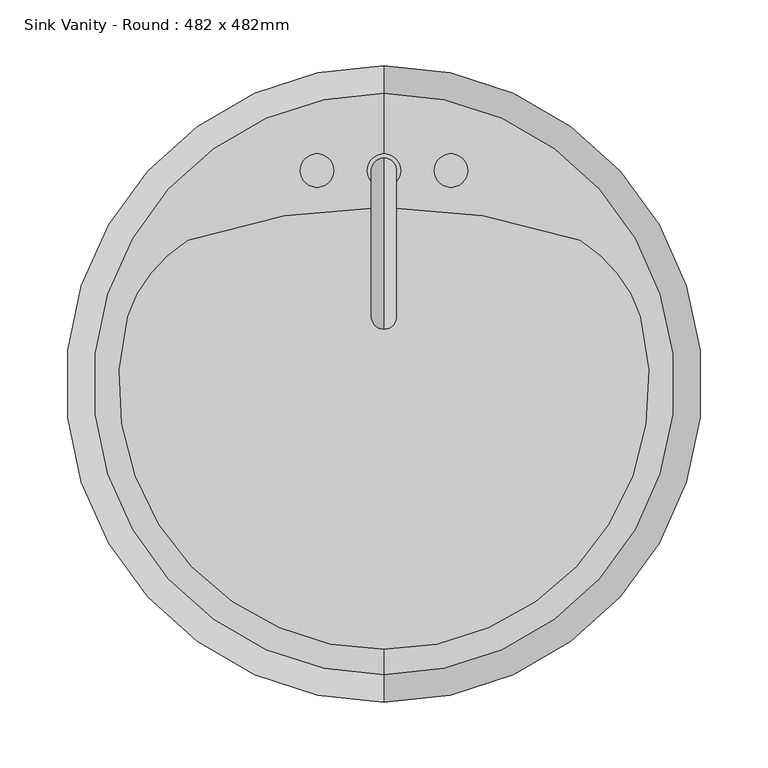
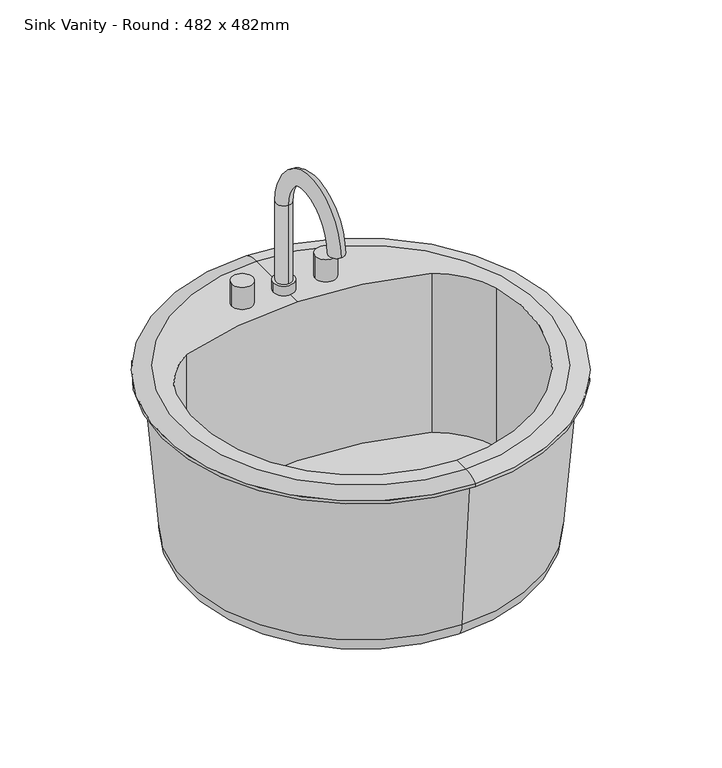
"""IFC4 building model written with IfcOpenShell, lengths in millimetres: flow terminal geometry, Sink Vanity - Round : 482 x 482mm."""

from ifc_helpers import new_model, si_unit, point, frame, frame_2d, origin, place, context, project, spatial, polyline, circle_curve, ellipse_curve, trimmed, segment, composite_curve, outline, extrude, source, transform, mapped, element, save
from ifc_brep_helpers import plane_surface, cylinder_surface, revolved_surface, advanced_brep


def sink_vanity_round_482_x_482mm_621b7b9b(model_context):
    return source(origin(), model_context, "Body", "SolidModel", [
        advanced_brep(
        [(83.9517406, 247.0927185, 759.525), (109.3517406, 247.0927185, 759.525), (83.9517406, 247.0927185, 771.7602909), (109.3517406, 247.0927185, 771.7602909), (96.6517406, 237.5677185, 771.7602909), (96.6517406, 256.6177185, 771.7602909), (96.6517406, 237.5677185, 872.2375), (96.6517406, 256.6177185, 872.2375), (96.6517406, 145.7775038, 872.2375), (96.6517406, 126.7275038, 872.2375)],
        [
            (0, 1, circle_curve(frame((96.6517406, 247.0927185, 759.525), z_axis=(0.0, 0.0, -1.0), x_axis=(1.0, 0.0, 0.0)), 12.7)),
            (1, 0, circle_curve(frame((96.6517406, 247.0927185, 759.525), z_axis=(0.0, 0.0, -1.0), x_axis=(1.0, 0.0, 0.0)), 12.7)),
            (2, 3, circle_curve(frame((96.6517406, 247.0927185, 771.7602909), z_axis=(0.0, 0.0, 1.0), x_axis=(1.0, 0.0, 0.0)), 12.7)),
            (3, 2, circle_curve(frame((96.6517406, 247.0927185, 771.7602909), z_axis=(0.0, 0.0, 1.0), x_axis=(1.0, 0.0, 0.0)), 12.7)),
            (4, 5, circle_curve(frame((96.6517406, 247.0927185, 771.7602909), z_axis=(0.0, 0.0, -1.0), x_axis=(0.0, 1.0, 0.0)), 9.525)),
            (5, 4, circle_curve(frame((96.6517406, 247.0927185, 771.7602909), z_axis=(0.0, 0.0, -1.0), x_axis=(0.0, 1.0, 0.0)), 9.525)),
            (2, 0),
            (1, 3),
            (6, 7, circle_curve(frame((96.6517406, 247.0927185, 872.2375), z_axis=(0.0, 0.0, -1.0), x_axis=(0.0, 1.0, 0.0)), 9.525)),
            (7, 5),
            (4, 6),
            (7, 6, circle_curve(frame((96.6517406, 247.0927185, 872.2375), z_axis=(0.0, 0.0, -1.0), x_axis=(0.0, 1.0, 0.0)), 9.525)),
            (8, 9, circle_curve(frame((96.6517406, 136.2525038, 872.2375), z_axis=(0.0, 0.0, -1.0), x_axis=(0.0, -1.0, 0.0)), 9.525)),
            (9, 8, circle_curve(frame((96.6517406, 136.2525038, 872.2375), z_axis=(0.0, 0.0, -1.0), x_axis=(0.0, -1.0, 0.0)), 9.525)),
            (6, 8, circle_curve(frame((96.6517406, 191.6726112, 872.2375), z_axis=(1.0, 0.0, 0.0), x_axis=(0.0, 1.0, 0.0)), 45.8951073)),
            (9, 7, circle_curve(frame((96.6517406, 191.6726112, 872.2375), z_axis=(-1.0, 0.0, 0.0), x_axis=(0.0, 1.0, 0.0)), 64.9451073)),
        ],
        [
            plane_surface(frame((109.3517406, 247.0927185, 759.525), z_axis=(0.0, 0.0, -1.0), x_axis=(0.0, -1.0, 0.0))),
            plane_surface(frame((109.3517406, 247.0927185, 771.7602909), z_axis=(0.0, 0.0, 1.0), x_axis=(0.0, 1.0, 0.0))),
            cylinder_surface(frame((96.6517406, 247.0927185, 759.525), z_axis=(0.0, 0.0, 1.0), x_axis=(1.0, 0.0, 0.0)), 12.7),
            cylinder_surface(frame((96.6517406, 247.0927185, 759.525), z_axis=(0.0, 0.0, -1.0), x_axis=(0.0, 1.0, 0.0)), 9.525),
            plane_surface(frame((96.6517406, 191.6726112, 872.2375), z_axis=(0.0, 0.0, -1.0), x_axis=(0.0, -1.0, 0.0))),
            revolved_surface(trimmed(ellipse_curve(frame((96.6517406, 247.0927185, 872.2375), z_axis=(0.0, 0.0, -1.0), x_axis=(0.0, 1.0, 0.0)), 9.525, 9.525), [point((96.6517406, 237.5677185, 872.2375))], [point((96.6517406, 256.6177185, 872.2375))], True, "CARTESIAN"), (96.6517406, 191.6726112, 872.2375), (1.0, 0.0, 0.0)),
            revolved_surface(trimmed(ellipse_curve(frame((96.6517406, 247.0927185, 872.2375), z_axis=(0.0, 0.0, -1.0), x_axis=(0.0, 1.0, 0.0)), 9.525, 9.525), [point((96.6517406, 256.6177185, 872.2375))], [point((96.6517406, 237.5677185, 872.2375))], True, "CARTESIAN"), (96.6517406, 191.6726112, 872.2375), (1.0, 0.0, 0.0)),
        ],
        [
            (0, [[1, 2]]),
            (1, [[3, 4], [5, 6]]),
            (2, [[-3, 7, -2, 8]]),
            (2, [[-4, -8, -1, -7]]),
            (3, [[9, 10, -5, 11]]),
            (3, [[12, -11, -6, -10]]),
            (4, [[13, 14]]),
            (5, [[-9, 15, -14, 16]]),
            (6, [[-12, -16, -13, -15]]),
        ],
    ),
        extrude(outline(composite_curve([segment(trimmed(circle_curve(frame_2d((45.8517406, 247.0927185)), 12.7), [point((33.1517406, 247.0927185))], [point((58.5517406, 247.0927185))], False, "CARTESIAN"), True, "CONTINUOUS"), segment(trimmed(circle_curve(frame_2d((45.8517406, 247.0927185)), 12.7), [point((58.5517406, 247.0927185))], [point((33.1517406, 247.0927185))], False, "CARTESIAN"), True, "CONTINUOUS")], self_intersect=False)), frame((0.0, 0.0, 759.525), z_axis=(0.0, 0.0, 1.0), x_axis=(1.0, 0.0, 0.0)), (0.0, 0.0, 1.0), 28.575),
        extrude(outline(composite_curve([segment(trimmed(circle_curve(frame_2d((147.4517406, 247.0927185)), 12.7), [point((134.7517406, 247.0927185))], [point((160.1517406, 247.0927185))], False, "CARTESIAN"), True, "CONTINUOUS"), segment(trimmed(circle_curve(frame_2d((147.4517406, 247.0927185)), 12.7), [point((160.1517406, 247.0927185))], [point((134.7517406, 247.0927185))], False, "CARTESIAN"), True, "CONTINUOUS")], self_intersect=False)), frame((0.0, 0.0, 759.525), z_axis=(0.0, 0.0, 1.0), x_axis=(1.0, 0.0, 0.0)), (0.0, 0.0, 1.0), 28.575),
        advanced_brep(
        [(96.6517406, -135.3870093, 759.525), (96.6517406, 305.7224463, 759.525), (96.6517406, 326.4677185, 753.96875), (96.6517406, -156.1322815, 753.96875), (96.6517406, -116.2405705, 759.525), (-98.1703414, 136.2525038, 759.525), (-52.1534933, 194.0861398, 759.525), (96.6517406, 219.2662048, 759.525), (245.4569744, 194.0861398, 759.525), (291.4738225, 136.2525038, 759.525), (96.6517406, -107.1264028, 534.1), (96.6517406, 277.4618398, 534.1), (96.6517406, 85.1677185, 534.1), (96.6517406, -127.6827361, 555.2842611), (96.6517406, 298.0181731, 555.2842611), (96.6517406, -144.2260315, 750.0), (96.6517406, 314.5614685, 750.0), (96.6517406, -156.1322815, 750.0), (96.6517406, 326.4677185, 750.0), (245.4569744, 194.0861398, 555.2842611), (-52.1534933, 194.0861398, 555.2842611), (-98.1703414, 136.2525038, 555.2842611), (291.4738225, 136.2525038, 555.2842611)],
        [
            (0, 1, circle_curve(frame((96.6517406, 85.1677185, 759.525), z_axis=(0.0, 0.0, -1.0), x_axis=(0.0, 1.0, 0.0)), 220.5547278)),
            (1, 2, circle_curve(frame((96.6517406, 309.4374616, 731.889434), z_axis=(-1.0, 0.0, 0.0), x_axis=(0.0, 1.0, 0.0)), 27.8841505)),
            (2, 3, circle_curve(frame((96.6517406, 85.1677185, 753.96875), z_axis=(0.0, 0.0, 1.0), x_axis=(0.0, 1.0, 0.0)), 241.3)),
            (3, 0, circle_curve(frame((96.6517406, -139.1020246, 731.889434), z_axis=(-1.0, 0.0, 0.0), x_axis=(0.0, -1.0, 0.0)), 27.8841505)),
            (1, 0, circle_curve(frame((96.6517406, 85.1677185, 759.525), z_axis=(0.0, 0.0, -1.0), x_axis=(0.0, 1.0, 0.0)), 220.5547278)),
            (3, 2, circle_curve(frame((96.6517406, 85.1677185, 753.96875), z_axis=(0.0, 0.0, 1.0), x_axis=(0.0, 1.0, 0.0)), 241.3)),
            (0, 4),
            (4, 5, circle_curve(frame((96.6517406, 85.1677185, 759.525), z_axis=(0.0, 0.0, -1.0), x_axis=(1.0, 0.0, 0.0)), 201.408289)),
            (5, 6, circle_curve(frame((1.3689689, 104.2755165, 759.525), z_axis=(0.0, 0.0, -1.0), x_axis=(1.0, 0.0, 0.0)), 104.5495194)),
            (6, 7, circle_curve(frame((96.6517406, -233.0168462, 759.525), z_axis=(0.0, 0.0, -1.0), x_axis=(1.0, 0.0, 0.0)), 452.283051)),
            (7, 1),
            (7, 8, circle_curve(frame((96.6517406, -233.0168462, 759.525), z_axis=(0.0, 0.0, -1.0), x_axis=(1.0, 0.0, 0.0)), 452.283051)),
            (8, 9, circle_curve(frame((191.9345122, 104.2755165, 759.525), z_axis=(0.0, 0.0, -1.0), x_axis=(1.0, 0.0, 0.0)), 104.5495194)),
            (9, 4, circle_curve(frame((96.6517406, 85.1677185, 759.525), z_axis=(0.0, 0.0, -1.0), x_axis=(1.0, 0.0, 0.0)), 201.408289)),
            (10, 11, circle_curve(frame((96.6517406, 85.1677185, 534.1), z_axis=(0.0, 0.0, -1.0), x_axis=(0.0, 1.0, 0.0)), 192.2941213)),
            (11, 12),
            (12, 10),
            (11, 10, circle_curve(frame((96.6517406, 85.1677185, 534.1), z_axis=(0.0, 0.0, -1.0), x_axis=(0.0, 1.0, 0.0)), 192.2941213)),
            (10, 13, circle_curve(frame((96.6517406, -107.1264028, 554.6656396), z_axis=(-1.0, 0.0, 0.0), x_axis=(0.0, -1.0, 0.0)), 20.5656396)),
            (13, 14, circle_curve(frame((96.6517406, 85.1677185, 555.2842611), z_axis=(0.0, 0.0, -1.0), x_axis=(0.0, 1.0, 0.0)), 212.8504546)),
            (14, 11, circle_curve(frame((96.6517406, 277.4618398, 554.6656396), z_axis=(-1.0, 0.0, 0.0), x_axis=(0.0, 1.0, 0.0)), 20.5656396)),
            (14, 13, circle_curve(frame((96.6517406, 85.1677185, 555.2842611), z_axis=(0.0, 0.0, -1.0), x_axis=(0.0, 1.0, 0.0)), 212.8504546)),
            (13, 15),
            (15, 16, circle_curve(frame((96.6517406, 85.1677185, 750.0), z_axis=(0.0, 0.0, -1.0), x_axis=(0.0, 1.0, 0.0)), 229.39375)),
            (16, 14),
            (16, 15, circle_curve(frame((96.6517406, 85.1677185, 750.0), z_axis=(0.0, 0.0, -1.0), x_axis=(0.0, 1.0, 0.0)), 229.39375)),
            (15, 17),
            (17, 18, circle_curve(frame((96.6517406, 85.1677185, 750.0), z_axis=(0.0, 0.0, -1.0), x_axis=(0.0, 1.0, 0.0)), 241.3)),
            (18, 16),
            (18, 17, circle_curve(frame((96.6517406, 85.1677185, 750.0), z_axis=(0.0, 0.0, -1.0), x_axis=(0.0, 1.0, 0.0)), 241.3)),
            (2, 18),
            (17, 3),
            (19, 20, circle_curve(frame((96.6517406, -233.0168462, 555.2842611), z_axis=(0.0, 0.0, 1.0), x_axis=(1.0, 0.0, 0.0)), 452.283051)),
            (20, 21, circle_curve(frame((1.3689689, 104.2755165, 555.2842611), z_axis=(0.0, 0.0, 1.0), x_axis=(1.0, 0.0, 0.0)), 104.5495194)),
            (21, 22, circle_curve(frame((96.6517406, 85.1677185, 555.2842611), z_axis=(0.0, 0.0, 1.0), x_axis=(1.0, 0.0, 0.0)), 201.408289)),
            (22, 19, circle_curve(frame((191.9345122, 104.2755165, 555.2842611), z_axis=(0.0, 0.0, 1.0), x_axis=(1.0, 0.0, 0.0)), 104.5495194)),
            (19, 8),
            (6, 20),
            (5, 21),
            (9, 22),
        ],
        [
            revolved_surface(trimmed(ellipse_curve(frame((96.6517406, 309.4374616, 731.889434), z_axis=(1.0, 0.0, 0.0), x_axis=(0.0, 1.0, 0.0)), 27.8841505, 27.8841505), [point((96.6517406, 326.4677185, 753.96875))], [point((96.6517406, 305.7224463, 759.525))], True, "CARTESIAN"), (96.6517406, 85.1677185, 759.525), (0.0, 0.0, 1.0)),
            plane_surface(frame((96.6517406, 85.1677185, 759.525), z_axis=(0.0, 0.0, 1.0), x_axis=(0.0, 1.0, 0.0))),
            plane_surface(frame((96.6517406, 85.1677185, 534.1), z_axis=(0.0, 0.0, -1.0), x_axis=(0.0, 1.0, 0.0))),
            revolved_surface(trimmed(ellipse_curve(frame((96.6517406, 277.4618398, 554.6656396), z_axis=(1.0, 0.0, 0.0), x_axis=(0.0, 1.0, 0.0)), 20.5656396, 20.5656396), [point((96.6517406, 277.4618398, 534.1))], [point((96.6517406, 298.0181731, 555.2842611))], True, "CARTESIAN"), (96.6517406, 85.1677185, 759.525), (0.0, 0.0, 1.0)),
            revolved_surface(polyline([(96.6517406, 298.0181731, 555.2842611), (96.6517406, 314.5614685, 750.0)]), (96.6517406, 85.1677185, 759.525), (0.0, 0.0, 1.0)),
            plane_surface(frame((96.6517406, 85.1677185, 750.0), z_axis=(0.0, 0.0, -1.0), x_axis=(0.0, 1.0, 0.0))),
            cylinder_surface(frame((96.6517406, 85.1677185, 759.525), z_axis=(0.0, 0.0, 1.0), x_axis=(0.0, 1.0, 0.0)), 241.3),
            plane_surface(frame((548.9347916, -233.0168462, 555.2842611), z_axis=(0.0, 0.0, 1.0), x_axis=(0.0, -1.0, 0.0))),
            revolved_surface(polyline([(548.9347916, -233.0168462, 759.525), (548.9347916, -233.0168462, 555.2842611)]), (96.6517406, -233.0168462, 555.2842611), (0.0, 0.0, 1.0)),
            revolved_surface(polyline([(105.91848829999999, 104.2755165, 759.525), (105.91848829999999, 104.2755165, 555.2842611)]), (1.3689689, 104.2755165, 555.2842611), (0.0, 0.0, 1.0)),
            revolved_surface(polyline([(298.0600296, 85.1677185, 759.525), (298.0600296, 85.1677185, 555.2842611)]), (96.6517406, 85.1677185, 555.2842611), (0.0, 0.0, 1.0)),
            revolved_surface(polyline([(296.4840316, 104.2755165, 759.525), (296.4840316, 104.2755165, 555.2842611)]), (191.9345122, 104.2755165, 555.2842611), (0.0, 0.0, 1.0)),
        ],
        [
            (0, [[1, 2, 3, 4]]),
            (0, [[-2, 5, -4, 6]]),
            (1, [[-1, 7, 8, 9, 10, 11]]),
            (1, [[-5, -11, 12, 13, 14, -7]]),
            (2, [[15, 16, 17]]),
            (2, [[-16, 18, -17]]),
            (3, [[-15, 19, 20, 21]]),
            (3, [[-18, -21, 22, -19]]),
            (4, [[-20, 23, 24, 25]]),
            (4, [[-22, -25, 26, -23]]),
            (5, [[-24, 27, 28, 29]]),
            (5, [[-26, -29, 30, -27]]),
            (6, [[-3, 31, -28, 32]]),
            (6, [[-6, -32, -30, -31]]),
            (7, [[33, 34, 35, 36]]),
            (8, [[-33, 37, -12, -10, 38]]),
            (9, [[-34, -38, -9, 39]]),
            (10, [[-35, -39, -8, -14, 40]]),
            (11, [[-36, -40, -13, -37]]),
        ],
    ),
    ])


if __name__ == "__main__":
    model = new_model("IFC4")
    model_context = context("Model", 3, world=origin())
    ifc_project = project(units=[si_unit("LENGTHUNIT", "METRE", prefix="MILLI")], contexts=[model_context])
    site = spatial("IfcSite", under=ifc_project)
    building = spatial("IfcBuilding", under=site)
    placement = place(None, origin())
    sink_vanity_round_482_x_482mm_shape = sink_vanity_round_482_x_482mm_621b7b9b(model_context)
    element("IfcFlowTerminal", 1, ObjectType="Sink Vanity - Round : 482 x 482mm", at=placement, inside=building, context=model_context, shape_type="MappedRepresentation", body=[
        mapped(sink_vanity_round_482_x_482mm_shape, transform((0.0, 0.0, 0.0), x_axis=(1.0, 0.0, 0.0), y_axis=(0.0, 1.0, 0.0), z_axis=(0.0, 0.0, 1.0))),
    ])
    save(model, "model.ifc")
